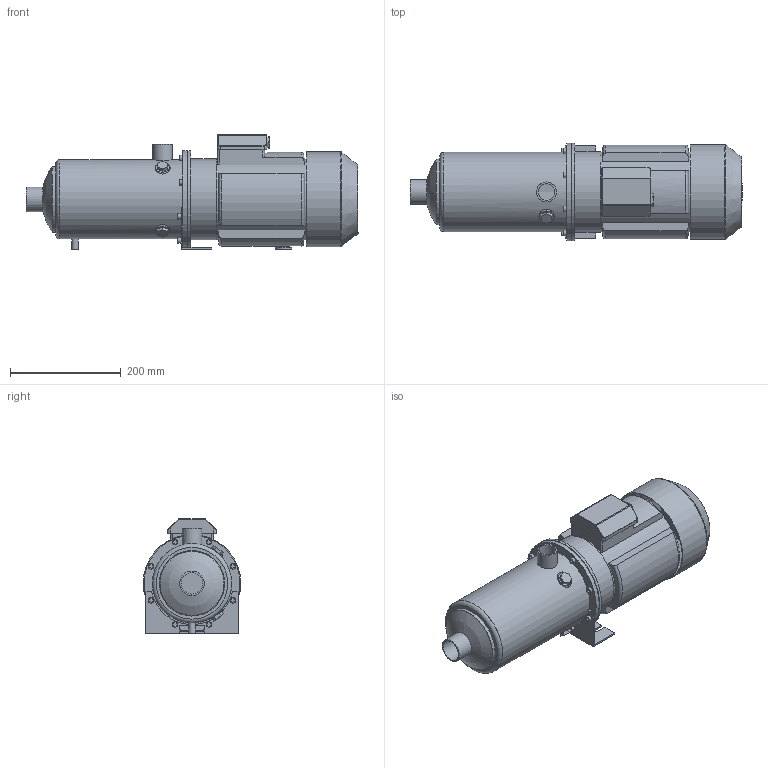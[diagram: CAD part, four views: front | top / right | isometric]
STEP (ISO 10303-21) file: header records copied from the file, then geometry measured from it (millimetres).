
FILE_DESCRIPTION(/* description */ ('Unknown'),/* implementation_level */ '2;1');
FILE_NAME(/* name */ 'MH 5 [9] T',/* time_stamp */ '2026-07-10T14:56:52+02:00',/* author */ ('Unknown'),/* organization */ ('Unknown'),/* preprocessor_version */ 'ST-DEVELOPER v20',/* originating_system */ 'Solid Edge',/* authorisation */ 'Unknown');
FILE_SCHEMA (('AUTOMOTIVE_DESIGN {1 0 10303 214 3 1 1}'));
Length unit declared in the file: millimetre
Products named in the file (10): MH 5 [9] T; Flangia motore Tonda M90; Corpo MH 3-5 [9]; Mot_Wendy_MEC90_22_T; carcassa MEC 90-Wendy; Basetta MEC 90 T-Wendy_new; Copriventola MEC 90-Wendy; Piedino MEC 90 int.90; Staffa 3-5-9 int.90
Assembly tree (8 placements, depth 3):
  MH 5 [9] T
    Flangia motore Tonda M90
    Corpo MH 3-5 [9]
    Mot_Wendy_MEC90_22_T
      carcassa MEC 90-Wendy
      Basetta MEC 90 T-Wendy_new
      Copriventola MEC 90-Wendy
    Piedino MEC 90 int.90
    Staffa 3-5-9 int.90
  (unnamed)
Bounding box: 600.6 x 176.5 x 206.5 mm (x, y, z)
Volume: 2632316.9 mm3; surface area: 723721.7 mm2
Topology: 8 solids, 8 shells, 269 faces, 627 edges, 416 vertices
Faces by surface type: plane 159, cylinder 71, torus 19, cone 14, bspline 4, sphere 2
Full cylindrical faces by diameter (mm): 7 x4, 10 x9, 12 x1, 13.5 x1, 17.5 x1, 21 x1, 30 x1, 30.291 x1, 36 x1, 38.952 x1, 44.5 x1, 116.1 x1, 118.5 x1, 136 x1, 140 x3, 141.1 x1, 143.5 x1, 146 x2, 170 x1, 172 x1, 173.5 x1, 174.1 x1, 176.5 x2
Entity records: 8635 total; most frequent: CARTESIAN_POINT 1558, DIRECTION 1218, ORIENTED_EDGE 1074, EDGE_CURVE 537, AXIS2_PLACEMENT_3D 447, VERTEX_POINT 384, EDGE_LOOP 379, FACE_BOUND 379
